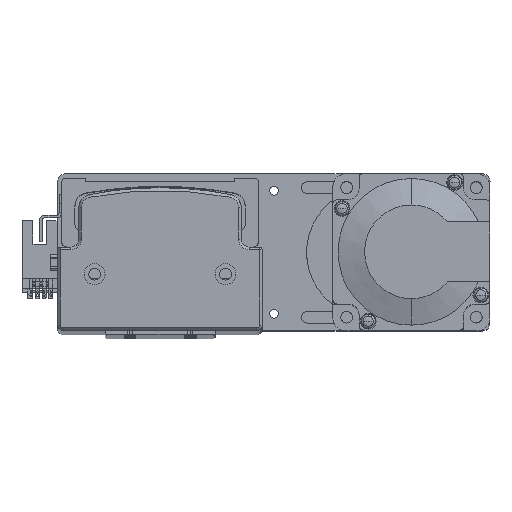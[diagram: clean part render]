
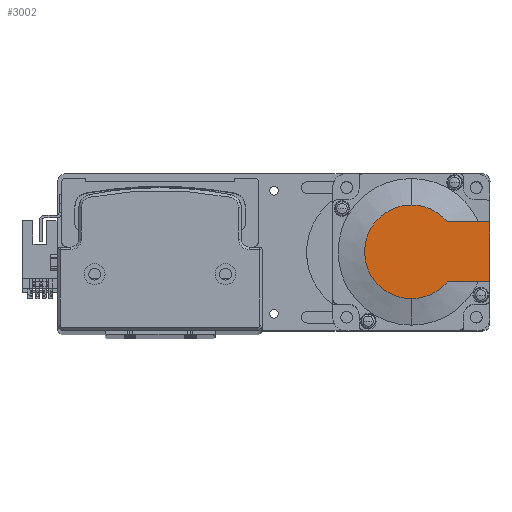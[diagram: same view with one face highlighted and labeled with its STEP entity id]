
A CAD part, top view. The second image highlights one B-rep face of the part: STEP entity #3002.
In plain terms, the highlighted planar face has unit normal (0, 0, 1) as drawn and (-1, 0, 0) by its records, which use the part's own axes.
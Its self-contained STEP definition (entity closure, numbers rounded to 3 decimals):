
#1386 = VERTEX_POINT ( 'NONE', #32578 ) ;
#1910 = DIRECTION ( 'NONE',  ( 0., 0., 1. ) ) ;
#3002 = ADVANCED_FACE ( 'NONE', ( #15687 ), #19893, .T. ) ;
#5706 = CARTESIAN_POINT ( 'NONE',  ( -118.5, 0., 17.881 ) ) ;
#6390 = CARTESIAN_POINT ( 'NONE',  ( -118.5, 0., 0. ) ) ;
#7275 = DIRECTION ( 'NONE',  ( 0., -1., 0. ) ) ;
#8071 = EDGE_CURVE ( 'NONE', #27103, #41459, #18275, .T. ) ;
#8416 = DIRECTION ( 'NONE',  ( -1., 0., 0. ) ) ;
#8442 = VERTEX_POINT ( 'NONE', #24824 ) ;
#10457 = DIRECTION ( 'NONE',  ( 0., 0., -1. ) ) ;
#11920 = CARTESIAN_POINT ( 'NONE',  ( -118.5, -8.941, 0. ) ) ;
#12299 = EDGE_CURVE ( 'NONE', #13960, #8442, #49077, .T. ) ;
#13960 = VERTEX_POINT ( 'NONE', #23986 ) ;
#14843 = AXIS2_PLACEMENT_3D ( 'NONE', #32451, #8416, #36444 ) ;
#15687 = FACE_OUTER_BOUND ( 'NONE', #30955, .T. ) ;
#15704 = EDGE_CURVE ( 'NONE', #13960, #1386, #31099, .T. ) ;
#15986 = DIRECTION ( 'NONE',  ( 0., 0., 1. ) ) ;
#16090 = ORIENTED_EDGE ( 'NONE', *, *, #16212, .F. ) ;
#16212 = EDGE_CURVE ( 'NONE', #8442, #41459, #31001, .T. ) ;
#18011 = EDGE_CURVE ( 'NONE', #39975, #27103, #21689, .T. ) ;
#18275 = CIRCLE ( 'NONE', #33000, 17.881 ) ;
#19893 = PLANE ( 'NONE',  #27491 ) ;
#20415 = VECTOR ( 'NONE', #7275, 1000. ) ;
#21689 = CIRCLE ( 'NONE', #14843, 17.881 ) ;
#22068 = DIRECTION ( 'NONE',  ( -1., 0., 0. ) ) ;
#22904 = ORIENTED_EDGE ( 'NONE', *, *, #12299, .F. ) ;
#22979 = VECTOR ( 'NONE', #51649, 1000. ) ;
#23986 = CARTESIAN_POINT ( 'NONE',  ( -118.5, 30., -11.45 ) ) ;
#24824 = CARTESIAN_POINT ( 'NONE',  ( -118.5, 30., 11.45 ) ) ;
#27103 = VERTEX_POINT ( 'NONE', #5706 ) ;
#27177 = CARTESIAN_POINT ( 'NONE',  ( -118.5, 0., 11.45 ) ) ;
#27491 = AXIS2_PLACEMENT_3D ( 'NONE', #11920, #39922, #15986 ) ;
#27877 = VECTOR ( 'NONE', #1910, 1000. ) ;
#28634 = CARTESIAN_POINT ( 'NONE',  ( -118.5, 13.735, 11.45 ) ) ;
#28662 = ORIENTED_EDGE ( 'NONE', *, *, #8071, .T. ) ;
#30955 = EDGE_LOOP ( 'NONE', ( #36562, #33737, #38664, #28662, #16090, #22904 ) ) ;
#31001 = LINE ( 'NONE', #27177, #20415 ) ;
#31099 = LINE ( 'NONE', #43783, #22979 ) ;
#32451 = CARTESIAN_POINT ( 'NONE',  ( -118.5, 0., 0. ) ) ;
#32578 = CARTESIAN_POINT ( 'NONE',  ( -118.5, 13.735, -11.45 ) ) ;
#33000 = AXIS2_PLACEMENT_3D ( 'NONE', #45942, #22068, #49920 ) ;
#33737 = ORIENTED_EDGE ( 'NONE', *, *, #34260, .T. ) ;
#34053 = CARTESIAN_POINT ( 'NONE',  ( -118.5, 30., 25. ) ) ;
#34260 = EDGE_CURVE ( 'NONE', #1386, #39975, #49776, .T. ) ;
#34431 = DIRECTION ( 'NONE',  ( -1., 0., 0. ) ) ;
#36444 = DIRECTION ( 'NONE',  ( 0., 0., -1. ) ) ;
#36562 = ORIENTED_EDGE ( 'NONE', *, *, #15704, .T. ) ;
#38664 = ORIENTED_EDGE ( 'NONE', *, *, #18011, .T. ) ;
#39922 = DIRECTION ( 'NONE',  ( -1., 0., 0. ) ) ;
#39975 = VERTEX_POINT ( 'NONE', #42696 ) ;
#41459 = VERTEX_POINT ( 'NONE', #28634 ) ;
#42696 = CARTESIAN_POINT ( 'NONE',  ( -118.5, 0., -17.881 ) ) ;
#43783 = CARTESIAN_POINT ( 'NONE',  ( -118.5, -8.941, -11.45 ) ) ;
#45942 = CARTESIAN_POINT ( 'NONE',  ( -118.5, 0., 0. ) ) ;
#49077 = LINE ( 'NONE', #34053, #27877 ) ;
#49317 = AXIS2_PLACEMENT_3D ( 'NONE', #6390, #34431, #10457 ) ;
#49776 = CIRCLE ( 'NONE', #49317, 17.881 ) ;
#49920 = DIRECTION ( 'NONE',  ( 0., 0., -1. ) ) ;
#51649 = DIRECTION ( 'NONE',  ( 0., -1., 0. ) ) ;
